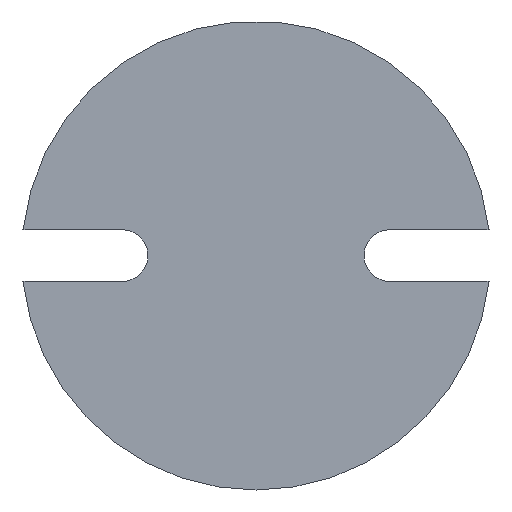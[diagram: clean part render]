
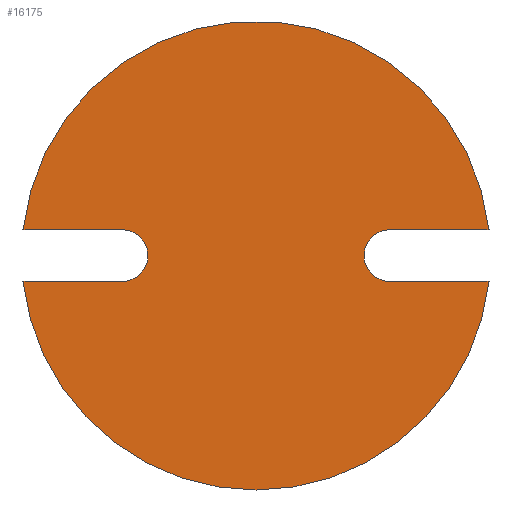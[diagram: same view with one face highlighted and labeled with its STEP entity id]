
A CAD part, front view. The second image highlights one B-rep face of the part: STEP entity #16175.
In plain terms, the highlighted planar face has unit normal (0, -1, 0).
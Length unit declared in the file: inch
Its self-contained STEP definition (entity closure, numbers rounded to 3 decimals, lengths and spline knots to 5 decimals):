
#629 = AXIS2_PLACEMENT_3D ( 'NONE', #15472, #15471, #15470 ) ;
#631 = AXIS2_PLACEMENT_3D ( 'NONE', #19598, #19595, #19579 ) ;
#633 = AXIS2_PLACEMENT_3D ( 'NONE', #19565, #19557, #19554 ) ;
#636 = AXIS2_PLACEMENT_3D ( 'NONE', #19491, #19488, #19485 ) ;
#1625 = EDGE_CURVE ( 'NONE', #9428, #9408, #1976, .T. ) ;
#1626 = EDGE_CURVE ( 'NONE', #9408, #9586, #1975, .T. ) ;
#1888 = ORIENTED_EDGE ( 'NONE', *, *, #1626, .T. ) ;
#1889 = ORIENTED_EDGE ( 'NONE', *, *, #1625, .T. ) ;
#1890 = ORIENTED_EDGE ( 'NONE', *, *, #12046, .T. ) ;
#1891 = ORIENTED_EDGE ( 'NONE', *, *, #12050, .F. ) ;
#1892 = ORIENTED_EDGE ( 'NONE', *, *, #8334, .F. ) ;
#1893 = ORIENTED_EDGE ( 'NONE', *, *, #12047, .T. ) ;
#1894 = ORIENTED_EDGE ( 'NONE', *, *, #12048, .T. ) ;
#1895 = ORIENTED_EDGE ( 'NONE', *, *, #12049, .T. ) ;
#1896 = ORIENTED_EDGE ( 'NONE', *, *, #12053, .F. ) ;
#1975 = LINE ( 'NONE', #9585, #1977 ) ;
#1976 = CIRCLE ( 'NONE', #9932, 0.0965 ) ;
#1977 = VECTOR ( 'NONE', #9584, 39.37008 ) ;
#2672 = VERTEX_POINT ( 'NONE', #8463 ) ;
#8334 = EDGE_CURVE ( 'NONE', #9135, #9212, #10800, .T. ) ;
#8463 = CARTESIAN_POINT ( 'NONE',  ( -0.86966, 0., 0.0965 ) ) ;
#9135 = VERTEX_POINT ( 'NONE', #15129 ) ;
#9212 = VERTEX_POINT ( 'NONE', #15110 ) ;
#9408 = VERTEX_POINT ( 'NONE', #15062 ) ;
#9414 = VERTEX_POINT ( 'NONE', #15059 ) ;
#9428 = VERTEX_POINT ( 'NONE', #15056 ) ;
#9490 = VERTEX_POINT ( 'NONE', #15035 ) ;
#9503 = VERTEX_POINT ( 'NONE', #15030 ) ;
#9584 = DIRECTION ( 'NONE',  ( 1., 0., 0. ) ) ;
#9585 = CARTESIAN_POINT ( 'NONE',  ( 0., 0., 0.0965 ) ) ;
#9586 = VERTEX_POINT ( 'NONE', #15015 ) ;
#9587 = DIRECTION ( 'NONE',  ( 0., 0., 1. ) ) ;
#9589 = DIRECTION ( 'NONE',  ( 0., 1., 0. ) ) ;
#9590 = CARTESIAN_POINT ( 'NONE',  ( 0.49966, 0., 0. ) ) ;
#9932 = AXIS2_PLACEMENT_3D ( 'NONE', #9590, #9589, #9587 ) ;
#10800 = CIRCLE ( 'NONE', #629, 0.875 ) ;
#10920 = LINE ( 'NONE', #19650, #10921 ) ;
#10921 = VECTOR ( 'NONE', #19647, 39.37008 ) ;
#10922 = LINE ( 'NONE', #19630, #10923 ) ;
#10923 = VECTOR ( 'NONE', #19627, 39.37008 ) ;
#10924 = LINE ( 'NONE', #19571, #10926 ) ;
#10925 = CIRCLE ( 'NONE', #631, 0.0965 ) ;
#10926 = VECTOR ( 'NONE', #19569, 39.37008 ) ;
#10928 = CIRCLE ( 'NONE', #633, 0.875 ) ;
#10933 = CIRCLE ( 'NONE', #636, 0.875 ) ;
#11732 = DIRECTION ( 'NONE',  ( 0., 0., 1. ) ) ;
#11733 = DIRECTION ( 'NONE',  ( 0., 1., 0. ) ) ;
#11734 = CARTESIAN_POINT ( 'NONE',  ( 0., 0., 0. ) ) ;
#11735 = PLANE ( 'NONE',  #16789 ) ;
#12046 = EDGE_CURVE ( 'NONE', #9503, #9428, #10920, .T. ) ;
#12047 = EDGE_CURVE ( 'NONE', #9490, #9212, #10922, .T. ) ;
#12048 = EDGE_CURVE ( 'NONE', #9414, #9490, #10925, .T. ) ;
#12049 = EDGE_CURVE ( 'NONE', #2672, #9414, #10924, .T. ) ;
#12050 = EDGE_CURVE ( 'NONE', #9503, #9135, #10928, .T. ) ;
#12053 = EDGE_CURVE ( 'NONE', #2672, #9586, #10933, .T. ) ;
#13481 = FACE_OUTER_BOUND ( 'NONE', #18411, .T. ) ;
#15015 = CARTESIAN_POINT ( 'NONE',  ( 0.86966, 0., 0.0965 ) ) ;
#15030 = CARTESIAN_POINT ( 'NONE',  ( 0.86966, 0., -0.0965 ) ) ;
#15035 = CARTESIAN_POINT ( 'NONE',  ( -0.49966, 0., -0.0965 ) ) ;
#15056 = CARTESIAN_POINT ( 'NONE',  ( 0.49966, 0., -0.0965 ) ) ;
#15059 = CARTESIAN_POINT ( 'NONE',  ( -0.49966, 0., 0.0965 ) ) ;
#15062 = CARTESIAN_POINT ( 'NONE',  ( 0.49966, 0., 0.0965 ) ) ;
#15110 = CARTESIAN_POINT ( 'NONE',  ( -0.86966, 0., -0.0965 ) ) ;
#15129 = CARTESIAN_POINT ( 'NONE',  ( 0., 0., -0.875 ) ) ;
#15470 = DIRECTION ( 'NONE',  ( 0., 0., 1. ) ) ;
#15471 = DIRECTION ( 'NONE',  ( 0., 1., 0. ) ) ;
#15472 = CARTESIAN_POINT ( 'NONE',  ( 0., 0., 0. ) ) ;
#16175 = ADVANCED_FACE ( 'NONE', ( #13481 ), #11735, .F. ) ;
#16789 = AXIS2_PLACEMENT_3D ( 'NONE', #11734, #11733, #11732 ) ;
#18411 = EDGE_LOOP ( 'NONE', ( #1896, #1895, #1894, #1893, #1892, #1891, #1890, #1889, #1888 ) ) ;
#19485 = DIRECTION ( 'NONE',  ( 0., 0., 1. ) ) ;
#19488 = DIRECTION ( 'NONE',  ( 0., 1., 0. ) ) ;
#19491 = CARTESIAN_POINT ( 'NONE',  ( 0., 0., 0. ) ) ;
#19554 = DIRECTION ( 'NONE',  ( 0., 0., 1. ) ) ;
#19557 = DIRECTION ( 'NONE',  ( 0., 1., 0. ) ) ;
#19565 = CARTESIAN_POINT ( 'NONE',  ( 0., 0., 0. ) ) ;
#19569 = DIRECTION ( 'NONE',  ( 1., 0., 0. ) ) ;
#19571 = CARTESIAN_POINT ( 'NONE',  ( 0., 0., 0.0965 ) ) ;
#19579 = DIRECTION ( 'NONE',  ( 0., 0., 1. ) ) ;
#19595 = DIRECTION ( 'NONE',  ( 0., 1., 0. ) ) ;
#19598 = CARTESIAN_POINT ( 'NONE',  ( -0.49966, 0., 0. ) ) ;
#19627 = DIRECTION ( 'NONE',  ( -1., 0., 0. ) ) ;
#19630 = CARTESIAN_POINT ( 'NONE',  ( 0., 0., -0.0965 ) ) ;
#19647 = DIRECTION ( 'NONE',  ( -1., 0., 0. ) ) ;
#19650 = CARTESIAN_POINT ( 'NONE',  ( 0., 0., -0.0965 ) ) ;
